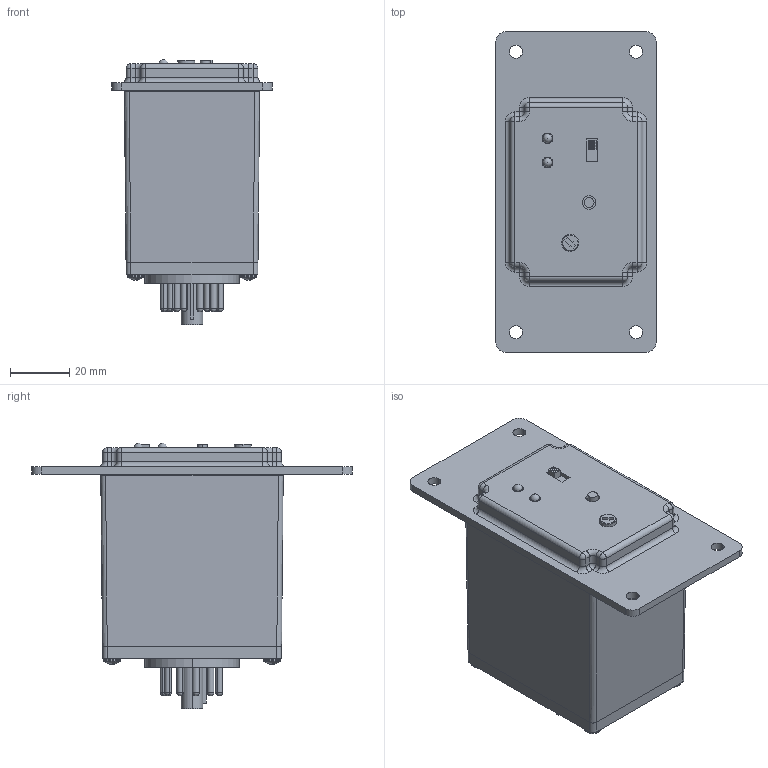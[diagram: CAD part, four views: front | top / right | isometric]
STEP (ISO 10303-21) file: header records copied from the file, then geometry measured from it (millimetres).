
FILE_DESCRIPTION(('FreeCAD Model'),'2;1');
FILE_NAME('Open CASCADE Shape Model','2023-06-06T13:19:38',(''),(''), 'Open CASCADE STEP processor 7.6','FreeCAD','Unknown');
FILE_SCHEMA(('AUTOMOTIVE_DESIGN { 1 0 10303 214 1 1 1 1 }'));
Products named in the file (1): Compound001
Bounding box: 53.98 x 107.95 x 89.41 mm (x, y, z)
Surface area: 34643 mm2 (no closed solid volume)
Topology: 0 solids, 18 shells, 840 faces, 2206 edges, 1416 vertices
Faces by surface type: cylinder 310, plane 266, bspline 146, torus 48, sphere 36, cone 34
Entity records: 101936 total; most frequent: CARTESIAN_POINT 62716, DIRECTION 5836, ORIENTED_EDGE 4340, PCURVE 4340, DEFINITIONAL_REPRESENTATION 4340, LINE 3372, VECTOR 3372, B_SPLINE_CURVE_WITH_KNOTS 2302
